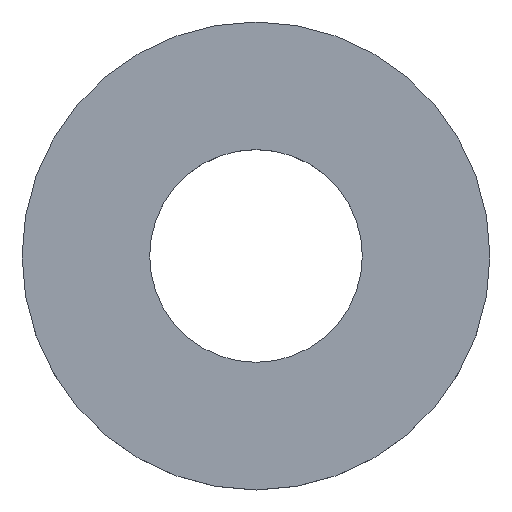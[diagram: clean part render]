
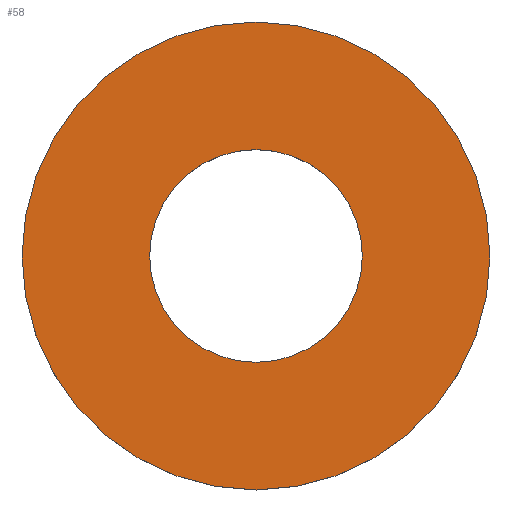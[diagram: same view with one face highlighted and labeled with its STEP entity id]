
A CAD part, top view. The second image highlights one B-rep face of the part: STEP entity #58.
In plain terms, the highlighted planar face has unit normal (0, 0, 1).
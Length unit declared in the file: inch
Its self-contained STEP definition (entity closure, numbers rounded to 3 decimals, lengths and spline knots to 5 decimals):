
#16=PLANE('',#68);
#20=FACE_BOUND('',#32,.T.);
#24=FACE_OUTER_BOUND('',#31,.T.);
#31=EDGE_LOOP('',(#51));
#32=EDGE_LOOP('',(#52));
#33=CIRCLE('',#62,0.625);
#35=CIRCLE('',#65,1.375);
#37=VERTEX_POINT('',#89);
#39=VERTEX_POINT('',#94);
#41=EDGE_CURVE('',#37,#37,#33,.T.);
#43=EDGE_CURVE('',#39,#39,#35,.T.);
#51=ORIENTED_EDGE('',*,*,#43,.T.);
#52=ORIENTED_EDGE('',*,*,#41,.T.);
#58=ADVANCED_FACE('',(#24,#20),#16,.T.);
#62=AXIS2_PLACEMENT_3D('',#90,#73,#74);
#65=AXIS2_PLACEMENT_3D('',#95,#79,#80);
#68=AXIS2_PLACEMENT_3D('',#99,#85,#86);
#73=DIRECTION('center_axis',(0.,0.,-1.));
#74=DIRECTION('ref_axis',(-1.,0.,0.));
#79=DIRECTION('center_axis',(0.,0.,1.));
#80=DIRECTION('ref_axis',(-1.,0.,0.));
#85=DIRECTION('center_axis',(0.,0.,1.));
#86=DIRECTION('ref_axis',(1.,0.,0.));
#89=CARTESIAN_POINT('',(0.625,0.,0.25));
#90=CARTESIAN_POINT('Origin',(0.,0.,0.25));
#94=CARTESIAN_POINT('',(1.375,0.,0.25));
#95=CARTESIAN_POINT('Origin',(0.,0.,0.25));
#99=CARTESIAN_POINT('Origin',(0.,0.,
0.25));
